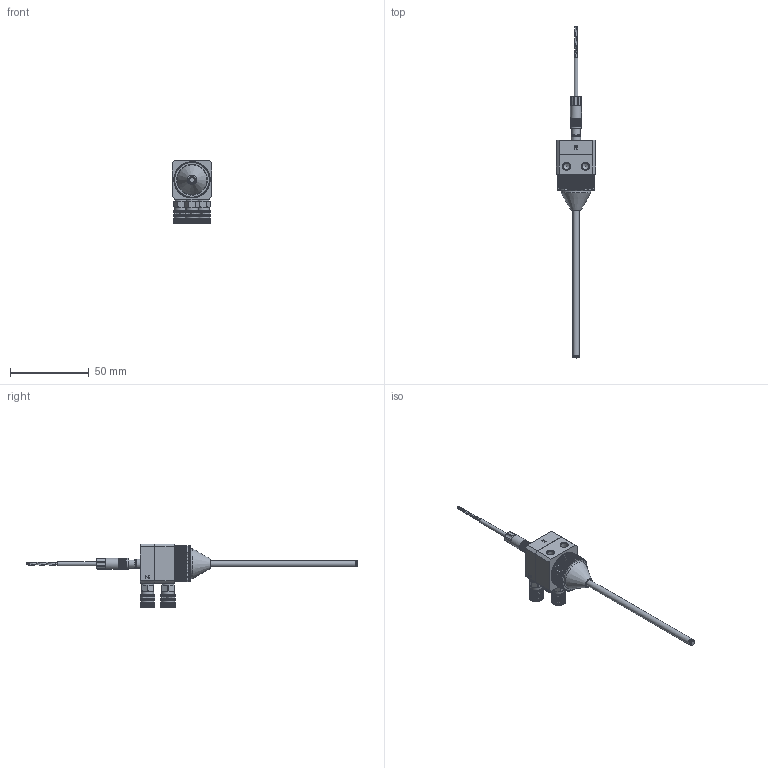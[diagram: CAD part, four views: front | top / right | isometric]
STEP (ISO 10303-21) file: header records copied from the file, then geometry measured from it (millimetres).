
FILE_DESCRIPTION (( 'STEP AP214' ), '1' );
FILE_NAME ('DAS-30-100-4-HP-SENSOR.STEP', '2024-10-11T09:58:23', ( '' ), ( '' ), 'SwSTEP 2.0', 'SolidWorks 2024', '' );
FILE_SCHEMA (( 'AUTOMOTIVE_DESIGN' ));
Length unit declared in the file: millimetre
Products named in the file (1): DAS-30-100-4-HP-SENSOR
Bounding box: 25 x 210.5 x 40.5 mm (x, y, z)
Volume: 22082.1 mm3; surface area: 13806.9 mm2
Topology: 2 solids, 2 shells, 1783 faces, 4731 edges, 3012 vertices
Faces by surface type: plane 1075, cylinder 444, cone 248, bspline 16
Full cylindrical faces by diameter (mm): 0.2 x8, 0.5 x1, 0.8 x3, 1.5 x4, 2 x1, 2.4 x1, 2.5 x1, 3 x3, 3.3 x1, 4 x7, 4.198 x2, 4.2 x2, 4.5 x3, 5.2 x2, 5.4 x4, 5.5 x4, 5.7 x3, 6 x1, 6.2 x3, 7 x2, 7.498 x3, 7.5 x3, 8 x7, 8.7 x3, 10 x1, 12 x1, 18.8 x1, 19 x1, 19.2 x1, 19.8 x1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
Entity records: 63998 total; most frequent: CARTESIAN_POINT 21503, ORIENTED_EDGE 8966, DIRECTION 8493, EDGE_CURVE 4483, AXIS2_PLACEMENT_3D 2971, VERTEX_POINT 2921, VECTOR 2551, LINE 2551
